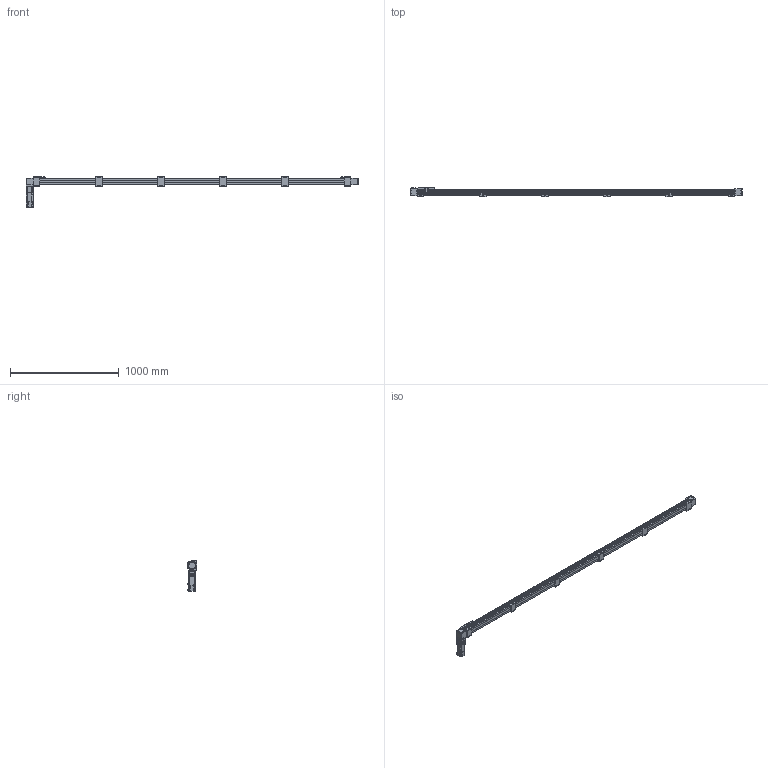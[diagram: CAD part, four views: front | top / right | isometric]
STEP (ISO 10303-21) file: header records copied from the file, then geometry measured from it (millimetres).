
FILE_DESCRIPTION(/* description */ ('STEP AP214'),/* implementation_level */ '2;1');
FILE_NAME(/* name */ 'SK60-P13-S2750-BR-T40-C1-N(0)',/* time_stamp */ '2023-04-06T04:03:25+02:00',/* author */ ('License CC BY-ND 4.0'),/* organization */ ('CADENAS'),/* preprocessor_version */ 'ST-DEVELOPER v19.3',/* originating_system */ 'PARTsolutions',/* authorisation */ ' ');
FILE_SCHEMA (('AUTOMOTIVE_DESIGN {1 0 10303 214 3 1 1}'));
Length unit declared in the file: millimetre
Products named in the file (11): SK60-P13-S2750-BR-T40-C1-N(0); PSC140-sensor; SK60-S450_seat; SK60-S450-BL-C1_slider; SK60_body3; SK60_body6; SK60-BL_body2; T40-p1; SK60_body5; SK60_body4; SK60-S2750-BR-C1_body
Assembly tree (21 placements, depth 2):
  SK60-P13-S2750-BR-T40-C1-N(0)
    PSC140-sensor  x3
    SK60-S450_seat  x6
    SK60-S450-BL-C1_slider
    SK60_body3  x3
    SK60_body6  x2
    SK60-BL_body2  x2
    T40-p1
    SK60_body5
    SK60_body4
    SK60-S2750-BR-C1_body
Bounding box: 3050 x 90 x 279.1 mm (x, y, z)
Volume: 10969608 mm3; surface area: 1330598.8 mm2
Topology: 21 solids, 25 shells, 1010 faces, 2501 edges, 1650 vertices
Faces by surface type: plane 640, cylinder 330, cone 38, torus 2
Full cylindrical faces by diameter (mm): 2.8 x3, 3.3 x4, 4.2 x8, 4.5 x26, 4.6 x3, 4.917 x32, 5 x2, 5.478 x4, 5.5 x35, 6.5 x12, 8 x4, 8.5 x4, 9.988 x4, 10 x24, 13.556 x1, 14 x1, 14.586 x1, 19.692 x1, 38.432 x2, 43 x1, 44 x3, 47 x2, 50 x2
Entity records: 19403 total; most frequent: DIRECTION 3300, CARTESIAN_POINT 3293, ORIENTED_EDGE 3050, EDGE_CURVE 1525, AXIS2_PLACEMENT_3D 1104, LINE 1092, VECTOR 1092, VERTEX_POINT 1077
